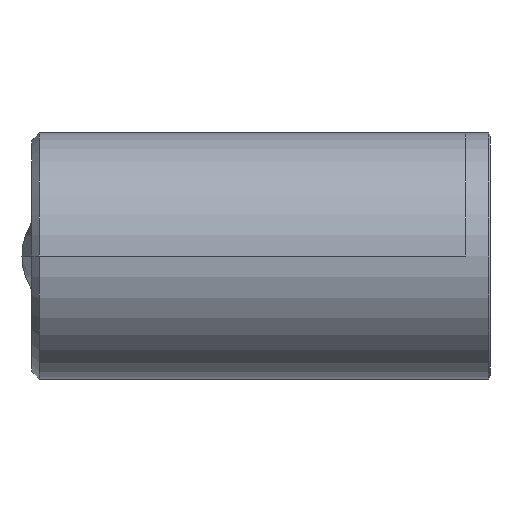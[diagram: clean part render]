
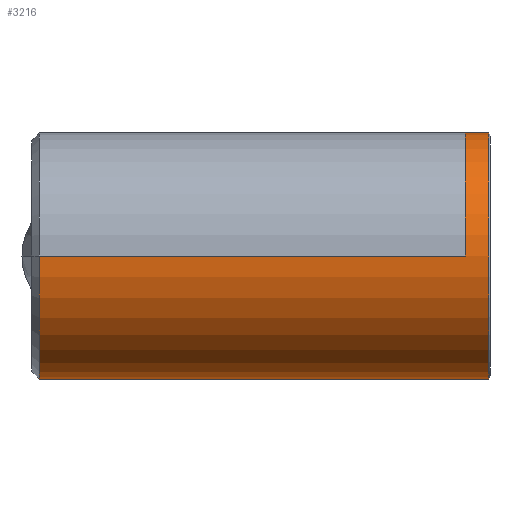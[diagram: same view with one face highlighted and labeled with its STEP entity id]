
A CAD part, left-side view. The second image highlights one B-rep face of the part: STEP entity #3216.
In plain terms, the highlighted cylindrical face has radius 25 mm (diameter 50 mm), a partial arc.
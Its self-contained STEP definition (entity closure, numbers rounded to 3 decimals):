
#843=CARTESIAN_POINT('',(0.,0.,0.));
#844=DIRECTION('',(0.,0.,1.));
#845=DIRECTION('',(0.,-1.,0.));
#846=AXIS2_PLACEMENT_3D('',#843,#844,#845);
#848=DIRECTION('',(0.,0.,-1.));
#849=VECTOR('',#848,86.5);
#850=CARTESIAN_POINT('',(25.,0.,0.));
#851=LINE('',#850,#849);
#857=DIRECTION('',(0.,0.,-1.));
#858=VECTOR('',#857,1.5);
#859=CARTESIAN_POINT('',(-25.,0.,-85.));
#860=LINE('',#859,#858);
#887=DIRECTION('',(0.,0.,-1.));
#888=VECTOR('',#887,69.);
#889=CARTESIAN_POINT('',(-25.,0.,0.));
#890=LINE('',#889,#888);
#896=CARTESIAN_POINT('',(0.,0.,0.));
#897=DIRECTION('',(0.,0.,1.));
#898=DIRECTION('',(0.,1.,0.));
#899=AXIS2_PLACEMENT_3D('',#896,#897,#898);
#901=CARTESIAN_POINT('',(-23.685,8.,-77.));
#902=CARTESIAN_POINT('',(-23.685,8.,-76.541));
#903=CARTESIAN_POINT('',(-23.712,7.924,-75.631));
#904=CARTESIAN_POINT('',(-23.832,7.557,-74.25));
#905=CARTESIAN_POINT('',(-24.013,6.968,-72.99));
#906=CARTESIAN_POINT('',(-24.232,6.171,-71.847));
#907=CARTESIAN_POINT('',(-24.459,5.21,-70.878));
#908=CARTESIAN_POINT('',(-24.675,4.076,-70.07));
#909=CARTESIAN_POINT('',(-24.854,2.814,-69.465));
#910=CARTESIAN_POINT('',(-24.974,1.405,-69.081));
#911=CARTESIAN_POINT('',(-25.,0.472,-69.));
#912=CARTESIAN_POINT('',(-25.,0.,-69.));
#914=CARTESIAN_POINT('',(-25.,0.,-85.));
#915=CARTESIAN_POINT('',(-25.,0.468,-85.));
#916=CARTESIAN_POINT('',(-24.974,1.392,-84.921));
#917=CARTESIAN_POINT('',(-24.856,2.791,-84.543));
#918=CARTESIAN_POINT('',(-24.679,4.054,-83.943));
#919=CARTESIAN_POINT('',(-24.463,5.194,-83.137));
#920=CARTESIAN_POINT('',(-24.235,6.16,-82.166));
#921=CARTESIAN_POINT('',(-24.015,6.962,-81.021));
#922=CARTESIAN_POINT('',(-23.833,7.554,-79.759));
#923=CARTESIAN_POINT('',(-23.712,7.923,-78.375));
#924=CARTESIAN_POINT('',(-23.685,8.,-77.462));
#925=CARTESIAN_POINT('',(-23.685,8.,-77.));
#927=CARTESIAN_POINT('',(0.,0.,-86.5));
#928=DIRECTION('',(0.,0.,-1.));
#929=DIRECTION('',(-1.,0.,0.));
#930=AXIS2_PLACEMENT_3D('',#927,#928,#929);
#932=DIRECTION('',(0.,0.,1.));
#933=VECTOR('',#932,4.7);
#934=CARTESIAN_POINT('',(0.,-25.,0.));
#935=LINE('',#934,#933);
#941=CARTESIAN_POINT('',(0.,0.,
4.699));
#942=DIRECTION('',(0.,0.,-1.));
#943=DIRECTION('',(0.,1.,0.));
#944=AXIS2_PLACEMENT_3D('',#941,#942,#943);
#975=DIRECTION('',(0.,0.,1.));
#976=VECTOR('',#975,4.7);
#977=CARTESIAN_POINT('',(0.,25.,0.));
#978=LINE('',#977,#976);
#1863=CARTESIAN_POINT('',(-25.,0.,-86.5));
#1864=CARTESIAN_POINT('',(25.,0.,-86.5));
#1865=VERTEX_POINT('',#1863);
#1866=VERTEX_POINT('',#1864);
#2293=VERTEX_POINT('',#914);
#2294=VERTEX_POINT('',#925);
#2295=VERTEX_POINT('',#912);
#2297=CARTESIAN_POINT('',(-25.,0.,0.));
#2298=VERTEX_POINT('',#2297);
#2339=CARTESIAN_POINT('',(0.,-25.,0.));
#2340=CARTESIAN_POINT('',(25.,0.,0.));
#2341=VERTEX_POINT('',#2339);
#2342=VERTEX_POINT('',#2340);
#2343=CARTESIAN_POINT('',(0.,25.,0.));
#2345=VERTEX_POINT('',#2343);
#2388=CARTESIAN_POINT('',(0.,25.,
4.7));
#2390=VERTEX_POINT('',#2388);
#2391=CARTESIAN_POINT('',(0.,-25.,
4.7));
#2393=VERTEX_POINT('',#2391);
#3193=CARTESIAN_POINT('',(0.,0.,-92.4));
#3194=DIRECTION('',(0.,0.,1.));
#3195=DIRECTION('',(-1.,0.,0.));
#3196=AXIS2_PLACEMENT_3D('',#3193,#3194,#3195);
#3197=CYLINDRICAL_SURFACE('',#3196,25.);
#3199=ORIENTED_EDGE('',*,*,#3198,.F.);
#3201=ORIENTED_EDGE('',*,*,#3200,.F.);
#3202=ORIENTED_EDGE('',*,*,#2412,.T.);
#3203=ORIENTED_EDGE('',*,*,#3187,.T.);
#3205=ORIENTED_EDGE('',*,*,#3204,.F.);
#3207=ORIENTED_EDGE('',*,*,#3206,.F.);
#3208=ORIENTED_EDGE('',*,*,#3181,.T.);
#3209=ORIENTED_EDGE('',*,*,#3151,.T.);
#3210=ORIENTED_EDGE('',*,*,#3178,.F.);
#3211=ORIENTED_EDGE('',*,*,#3176,.F.);
#3213=ORIENTED_EDGE('',*,*,#3212,.T.);
#3214=EDGE_LOOP('',(#3199,#3201,#3202,#3203,#3205,#3207,#3208,#3209,#3210,#3211,
#3213));
#3215=FACE_OUTER_BOUND('',#3214,.F.);
#3216=ADVANCED_FACE('',(#3215),#3197,.T.);
#847=CIRCLE('',#846,25.);
#900=CIRCLE('',#899,25.);
#913=B_SPLINE_CURVE_WITH_KNOTS('',3,(#901,#902,#903,#904,#905,#906,#907,#908,
#909,#910,#911,#912),.UNSPECIFIED.,.F.,.F.,(4,1,1,1,1,1,1,1,1,4),(0.,
0.111,0.222,0.333,0.444,
0.556,0.667,0.778,0.889,1.),
.UNSPECIFIED.);
#926=B_SPLINE_CURVE_WITH_KNOTS('',3,(#914,#915,#916,#917,#918,#919,#920,#921,
#922,#923,#924,#925),.UNSPECIFIED.,.F.,.F.,(4,1,1,1,1,1,1,1,1,4),(0.,
0.111,0.222,0.333,0.444,
0.556,0.667,0.778,0.889,1.),
.UNSPECIFIED.);
#931=CIRCLE('',#930,25.);
#945=CIRCLE('',#944,25.);
#2412=EDGE_CURVE('',#2345,#2298,#900,.T.);
#3151=EDGE_CURVE('',#1865,#1866,#931,.T.);
#3176=EDGE_CURVE('',#2341,#2342,#847,.T.);
#3178=EDGE_CURVE('',#2342,#1866,#851,.T.);
#3181=EDGE_CURVE('',#2293,#1865,#860,.T.);
#3187=EDGE_CURVE('',#2298,#2295,#890,.T.);
#3198=EDGE_CURVE('',#2390,#2393,#945,.T.);
#3200=EDGE_CURVE('',#2345,#2390,#978,.T.);
#3204=EDGE_CURVE('',#2294,#2295,#913,.T.);
#3206=EDGE_CURVE('',#2293,#2294,#926,.T.);
#3212=EDGE_CURVE('',#2341,#2393,#935,.T.);
